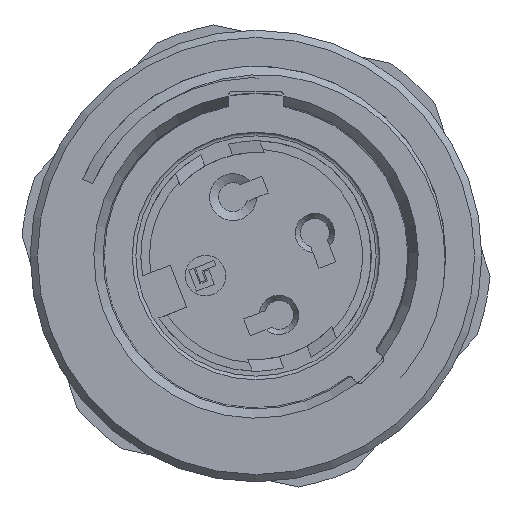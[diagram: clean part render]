
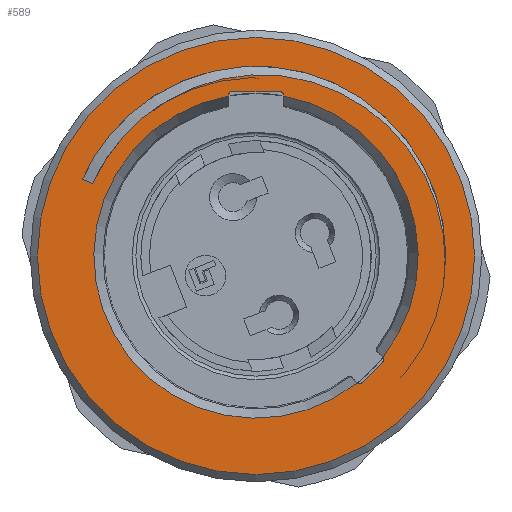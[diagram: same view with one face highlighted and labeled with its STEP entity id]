
A CAD part, left-side view. The second image highlights one B-rep face of the part: STEP entity #589.
In plain terms, the highlighted planar face has unit normal (-1, 0, 0).
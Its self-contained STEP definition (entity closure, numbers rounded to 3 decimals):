
#589=ADVANCED_FACE('',(#2173,#2174,#2175),#927,.T.);
#927=PLANE('',#6154);
#1086=LINE('',#8409,#1476);
#1087=LINE('',#8414,#1477);
#1088=LINE('',#8418,#1478);
#1089=LINE('',#8424,#1479);
#1090=LINE('',#8443,#1480);
#1476=VECTOR('',#6683,1.);
#1477=VECTOR('',#6686,1.);
#1478=VECTOR('',#6689,1.);
#1479=VECTOR('',#6694,1.);
#1480=VECTOR('',#6701,1.);
#1879=B_SPLINE_CURVE_WITH_KNOTS('',3,(#8429,#8430,#8431,#8432,#8433,#8434,
#8435,#8436,#8437,#8438),.UNSPECIFIED.,.F.,.F.,(4,2,2,2,4),(0.,0.25,0.5,
0.75,1.),.UNSPECIFIED.);
#1880=B_SPLINE_CURVE_WITH_KNOTS('',3,(#8445,#8446,#8447,#8448,#8449,#8450,
#8451,#8452,#8453,#8454),.UNSPECIFIED.,.F.,.F.,(4,2,2,2,4),(0.,0.25,0.5,
0.75,1.),.UNSPECIFIED.);
#2173=FACE_BOUND('',#2300,.T.);
#2174=FACE_BOUND('',#2301,.T.);
#2175=FACE_BOUND('',#2302,.T.);
#2300=EDGE_LOOP('',(#2765));
#2301=EDGE_LOOP('',(#2766,#2767,#2768,#2769,#2770,#2771,#2772,#2773,#2774,
#2775));
#2302=EDGE_LOOP('',(#2776,#2777,#2778,#2779));
#2765=ORIENTED_EDGE('',*,*,#5128,.T.);
#2766=ORIENTED_EDGE('',*,*,#5129,.F.);
#2767=ORIENTED_EDGE('',*,*,#5130,.T.);
#2768=ORIENTED_EDGE('',*,*,#5131,.F.);
#2769=ORIENTED_EDGE('',*,*,#5132,.T.);
#2770=ORIENTED_EDGE('',*,*,#5133,.F.);
#2771=ORIENTED_EDGE('',*,*,#5134,.T.);
#2772=ORIENTED_EDGE('',*,*,#5135,.T.);
#2773=ORIENTED_EDGE('',*,*,#5136,.T.);
#2774=ORIENTED_EDGE('',*,*,#5137,.T.);
#2775=ORIENTED_EDGE('',*,*,#5138,.T.);
#2776=ORIENTED_EDGE('',*,*,#5139,.F.);
#2777=ORIENTED_EDGE('',*,*,#5140,.T.);
#2778=ORIENTED_EDGE('',*,*,#5141,.T.);
#2779=ORIENTED_EDGE('',*,*,#5142,.F.);
#4531=VERTEX_POINT('',#8408);
#4532=VERTEX_POINT('',#8410);
#4533=VERTEX_POINT('',#8411);
#4534=VERTEX_POINT('',#8413);
#4535=VERTEX_POINT('',#8415);
#4536=VERTEX_POINT('',#8417);
#4537=VERTEX_POINT('',#8419);
#4538=VERTEX_POINT('',#8421);
#4539=VERTEX_POINT('',#8423);
#4540=VERTEX_POINT('',#8425);
#4541=VERTEX_POINT('',#8427);
#4542=VERTEX_POINT('',#8439);
#4543=VERTEX_POINT('',#8440);
#4544=VERTEX_POINT('',#8442);
#4545=VERTEX_POINT('',#8444);
#5128=EDGE_CURVE('',#4531,#4531,#5952,.T.);
#5129=EDGE_CURVE('',#4532,#4533,#1086,.T.);
#5130=EDGE_CURVE('',#4532,#4534,#5953,.T.);
#5131=EDGE_CURVE('',#4535,#4534,#1087,.T.);
#5132=EDGE_CURVE('',#4535,#4536,#5954,.T.);
#5133=EDGE_CURVE('',#4537,#4536,#1088,.T.);
#5134=EDGE_CURVE('',#4537,#4538,#5955,.T.);
#5135=EDGE_CURVE('',#4538,#4539,#5956,.T.);
#5136=EDGE_CURVE('',#4539,#4540,#1089,.T.);
#5137=EDGE_CURVE('',#4540,#4541,#5957,.T.);
#5138=EDGE_CURVE('',#4541,#4533,#5958,.T.);
#5139=EDGE_CURVE('',#4542,#4543,#1879,.T.);
#5140=EDGE_CURVE('',#4542,#4544,#5959,.T.);
#5141=EDGE_CURVE('',#4544,#4545,#1090,.T.);
#5142=EDGE_CURVE('',#4543,#4545,#1880,.T.);
#5952=CIRCLE('',#6146,12.1);
#5953=CIRCLE('',#6147,0.15);
#5954=CIRCLE('',#6148,0.15);
#5955=CIRCLE('',#6149,8.977);
#5956=CIRCLE('',#6150,0.2);
#5957=CIRCLE('',#6151,0.2);
#5958=CIRCLE('',#6152,8.977);
#5959=CIRCLE('',#6153,9.887);
#6146=AXIS2_PLACEMENT_3D('',#8407,#6681,#6682);
#6147=AXIS2_PLACEMENT_3D('',#8412,#6684,#6685);
#6148=AXIS2_PLACEMENT_3D('',#8416,#6687,#6688);
#6149=AXIS2_PLACEMENT_3D('',#8420,#6690,#6691);
#6150=AXIS2_PLACEMENT_3D('',#8422,#6692,#6693);
#6151=AXIS2_PLACEMENT_3D('',#8426,#6695,#6696);
#6152=AXIS2_PLACEMENT_3D('',#8428,#6697,#6698);
#6153=AXIS2_PLACEMENT_3D('',#8441,#6699,#6700);
#6154=AXIS2_PLACEMENT_3D('',#8455,#6702,#6703);
#6681=DIRECTION('',(-1.,0.,0.));
#6682=DIRECTION('',(0.,0.,1.));
#6683=DIRECTION('',(0.,0.,-1.));
#6684=DIRECTION('',(1.,0.,0.));
#6685=DIRECTION('',(0.,0.,1.));
#6686=DIRECTION('',(0.,1.,0.));
#6687=DIRECTION('',(1.,0.,0.));
#6688=DIRECTION('',(0.,0.,1.));
#6689=DIRECTION('',(0.,0.,1.));
#6690=DIRECTION('',(1.,0.,0.));
#6691=DIRECTION('',(0.,0.,1.));
#6692=DIRECTION('',(1.,0.,0.));
#6693=DIRECTION('',(0.,0.,1.));
#6694=DIRECTION('',(0.,0.707,-0.707));
#6695=DIRECTION('',(1.,0.,0.));
#6696=DIRECTION('',(0.,0.,1.));
#6697=DIRECTION('',(1.,0.,0.));
#6698=DIRECTION('',(0.,0.,1.));
#6699=DIRECTION('',(-1.,0.,0.));
#6700=DIRECTION('',(0.,0.,1.));
#6701=DIRECTION('',(0.,0.914,0.405));
#6702=DIRECTION('',(-1.,0.,0.));
#6703=DIRECTION('',(0.,0.,1.));
#8407=CARTESIAN_POINT('',(0.,0.,0.));
#8408=CARTESIAN_POINT('',(0.,0.,12.1));
#8409=CARTESIAN_POINT('',(0.,1.5,9.1));
#8410=CARTESIAN_POINT('',(0.,1.5,8.95));
#8411=CARTESIAN_POINT('',(0.,1.5,8.851));
#8412=CARTESIAN_POINT('',(0.,1.35,8.95));
#8413=CARTESIAN_POINT('',(0.,1.35,9.1));
#8414=CARTESIAN_POINT('',(0.,-1.5,9.1));
#8415=CARTESIAN_POINT('',(0.,-1.35,9.1));
#8416=CARTESIAN_POINT('',(0.,-1.35,8.95));
#8417=CARTESIAN_POINT('',(0.,-1.5,8.95));
#8418=CARTESIAN_POINT('',(0.,-1.5,8.265));
#8419=CARTESIAN_POINT('',(0.,-1.5,8.851));
#8420=CARTESIAN_POINT('',(0.,0.,0.));
#8421=CARTESIAN_POINT('',(0.,-7.015,-5.602));
#8422=CARTESIAN_POINT('',(0.,-6.859,-5.728));
#8423=CARTESIAN_POINT('',(0.,-7.,-5.869));
#8424=CARTESIAN_POINT('',(0.,-7.142,-5.728));
#8425=CARTESIAN_POINT('',(0.,-5.869,-7.));
#8426=CARTESIAN_POINT('',(0.,-5.728,-6.859));
#8427=CARTESIAN_POINT('',(0.,-5.602,-7.015));
#8428=CARTESIAN_POINT('',(0.,0.,0.));
#8429=CARTESIAN_POINT('',(0.,5.013,8.521));
#8430=CARTESIAN_POINT('',(0.,3.375,9.547));
#8431=CARTESIAN_POINT('',(0.,1.44,10.073));
#8432=CARTESIAN_POINT('',(0.,-2.386,9.997));
#8433=CARTESIAN_POINT('',(0.,-4.299,9.395));
#8434=CARTESIAN_POINT('',(0.,-7.499,7.255));
#8435=CARTESIAN_POINT('',(0.,-8.776,5.736));
#8436=CARTESIAN_POINT('',(0.,-10.349,2.224));
#8437=CARTESIAN_POINT('',(0.,-10.634,0.256));
#8438=CARTESIAN_POINT('',(0.,-10.377,-1.666));
#8439=CARTESIAN_POINT('',(0.,5.013,8.521));
#8440=CARTESIAN_POINT('',(0.,-10.377,-1.666));
#8441=CARTESIAN_POINT('',(0.,0.,0.));
#8442=CARTESIAN_POINT('',(0.,9.039,4.005));
#8443=CARTESIAN_POINT('',(0.,0.,0.));
#8444=CARTESIAN_POINT('',(0.,9.609,4.257));
#8445=CARTESIAN_POINT('',(0.,-10.377,-1.666));
#8446=CARTESIAN_POINT('',(0.,-10.781,0.851));
#8447=CARTESIAN_POINT('',(0.,-10.232,3.478));
#8448=CARTESIAN_POINT('',(0.,-7.549,7.733));
#8449=CARTESIAN_POINT('',(0.,-5.401,9.362));
#8450=CARTESIAN_POINT('',(0.,-0.564,10.794));
#8451=CARTESIAN_POINT('',(0.,2.109,10.604));
#8452=CARTESIAN_POINT('',(0.,6.711,8.476));
#8453=CARTESIAN_POINT('',(0.,8.577,6.588));
#8454=CARTESIAN_POINT('',(0.,9.609,4.257));
#8455=CARTESIAN_POINT('',(0.,0.,0.));
